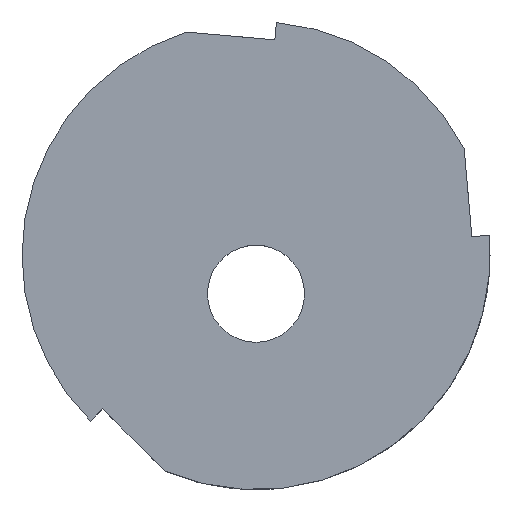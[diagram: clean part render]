
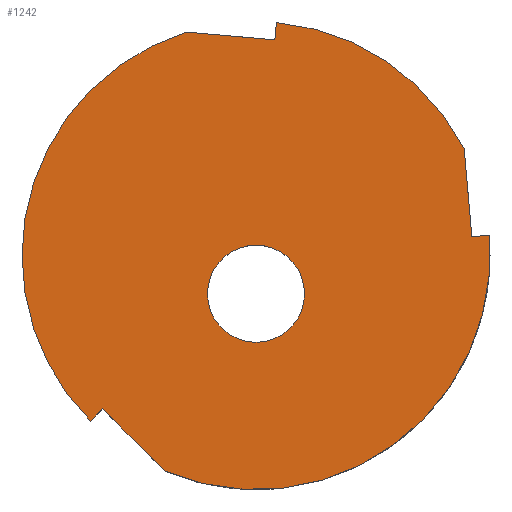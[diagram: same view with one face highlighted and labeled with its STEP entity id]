
A CAD part, top view. The second image highlights one B-rep face of the part: STEP entity #1242.
In plain terms, the highlighted planar face has unit normal (0, 0, 1).
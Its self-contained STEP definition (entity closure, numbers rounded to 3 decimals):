
#9 = LINE ( 'NONE', #518, #1566 ) ;
#21 = CIRCLE ( 'NONE', #1498, 33.75 ) ;
#25 = ORIENTED_EDGE ( 'NONE', *, *, #943, .T. ) ;
#38 = PLANE ( 'NONE',  #989 ) ;
#49 = VERTEX_POINT ( 'NONE', #136 ) ;
#94 = ORIENTED_EDGE ( 'NONE', *, *, #1385, .T. ) ;
#106 = DIRECTION ( 'NONE',  ( 0.707, 0.707, 0. ) ) ;
#133 = CARTESIAN_POINT ( 'NONE',  ( -33.75, 0., 1.8 ) ) ;
#134 = EDGE_CURVE ( 'NONE', #438, #546, #645, .T. ) ;
#136 = CARTESIAN_POINT ( 'NONE',  ( -7., -5.5, 1.8 ) ) ;
#138 = LINE ( 'NONE', #1499, #1428 ) ;
#145 = AXIS2_PLACEMENT_3D ( 'NONE', #492, #986, #1496 ) ;
#167 = AXIS2_PLACEMENT_3D ( 'NONE', #695, #819, #1200 ) ;
#172 = ORIENTED_EDGE ( 'NONE', *, *, #925, .T. ) ;
#182 = ORIENTED_EDGE ( 'NONE', *, *, #485, .T. ) ;
#193 = EDGE_CURVE ( 'NONE', #724, #496, #374, .T. ) ;
#206 = CARTESIAN_POINT ( 'NONE',  ( 2.724, 31.131, 1.8 ) ) ;
#210 = CIRCLE ( 'NONE', #1401, 33.75 ) ;
#217 = DIRECTION ( 'NONE',  ( 0., 0., 1. ) ) ;
#239 = DIRECTION ( 'NONE',  ( 1., 0., 0. ) ) ;
#253 = CARTESIAN_POINT ( 'NONE',  ( 33.622, 2.942, 1.8 ) ) ;
#277 = ORIENTED_EDGE ( 'NONE', *, *, #749, .F. ) ;
#298 = VERTEX_POINT ( 'NONE', #868 ) ;
#305 = EDGE_LOOP ( 'NONE', ( #932, #328, #25, #317, #172, #1045, #182, #1616, #1635, #94 ) ) ;
#313 = FACE_BOUND ( 'NONE', #609, .T. ) ;
#315 = EDGE_CURVE ( 'NONE', #546, #743, #138, .T. ) ;
#317 = ORIENTED_EDGE ( 'NONE', *, *, #893, .T. ) ;
#328 = ORIENTED_EDGE ( 'NONE', *, *, #315, .T. ) ;
#348 = DIRECTION ( 'NONE',  ( 0., 0., 1. ) ) ;
#350 = VERTEX_POINT ( 'NONE', #1310 ) ;
#352 = CARTESIAN_POINT ( 'NONE',  ( 0., -5.5, 1.8 ) ) ;
#363 = DIRECTION ( 'NONE',  ( -0.996, 0.087, 0. ) ) ;
#374 = LINE ( 'NONE', #1016, #1375 ) ;
#386 = DIRECTION ( 'NONE',  ( -0.087, -0.996, 0. ) ) ;
#425 = CARTESIAN_POINT ( 'NONE',  ( 31.131, 2.724, 1.8 ) ) ;
#438 = VERTEX_POINT ( 'NONE', #1562 ) ;
#446 = EDGE_CURVE ( 'NONE', #496, #642, #544, .T. ) ;
#485 = EDGE_CURVE ( 'NONE', #350, #724, #210, .T. ) ;
#492 = CARTESIAN_POINT ( 'NONE',  ( 0., 0., 1.8 ) ) ;
#496 = VERTEX_POINT ( 'NONE', #723 ) ;
#518 = CARTESIAN_POINT ( 'NONE',  ( -22.097, -22.097, 1.8 ) ) ;
#544 = LINE ( 'NONE', #425, #1085 ) ;
#546 = VERTEX_POINT ( 'NONE', #206 ) ;
#562 = CIRCLE ( 'NONE', #1430, 7. ) ;
#566 = FACE_OUTER_BOUND ( 'NONE', #305, .T. ) ;
#609 = EDGE_LOOP ( 'NONE', ( #910, #277 ) ) ;
#614 = CARTESIAN_POINT ( 'NONE',  ( 7., -5.5, 1.8 ) ) ;
#642 = VERTEX_POINT ( 'NONE', #1309 ) ;
#645 = LINE ( 'NONE', #1282, #1209 ) ;
#652 = CIRCLE ( 'NONE', #145, 33.75 ) ;
#695 = CARTESIAN_POINT ( 'NONE',  ( 0., 0., 1.8 ) ) ;
#715 = DIRECTION ( 'NONE',  ( 1., 0., 0. ) ) ;
#723 = CARTESIAN_POINT ( 'NONE',  ( 31.131, 2.724, 1.8 ) ) ;
#724 = VERTEX_POINT ( 'NONE', #253 ) ;
#730 = CARTESIAN_POINT ( 'NONE',  ( 0., 0., 1.8 ) ) ;
#742 = CIRCLE ( 'NONE', #167, 33.75 ) ;
#743 = VERTEX_POINT ( 'NONE', #755 ) ;
#749 = EDGE_CURVE ( 'NONE', #933, #49, #562, .T. ) ;
#755 = CARTESIAN_POINT ( 'NONE',  ( -9.975, 32.242, 1.8 ) ) ;
#778 = EDGE_CURVE ( 'NONE', #298, #350, #9, .T. ) ;
#819 = DIRECTION ( 'NONE',  ( 0., 0., 1. ) ) ;
#854 = DIRECTION ( 'NONE',  ( 0., 0., 1. ) ) ;
#868 = CARTESIAN_POINT ( 'NONE',  ( -22.097, -22.097, 1.8 ) ) ;
#888 = CIRCLE ( 'NONE', #1340, 7. ) ;
#893 = EDGE_CURVE ( 'NONE', #1198, #1501, #21, .T. ) ;
#904 = DIRECTION ( 'NONE',  ( 0., 0., 1. ) ) ;
#910 = ORIENTED_EDGE ( 'NONE', *, *, #964, .F. ) ;
#925 = EDGE_CURVE ( 'NONE', #1501, #298, #1489, .T. ) ;
#932 = ORIENTED_EDGE ( 'NONE', *, *, #134, .T. ) ;
#933 = VERTEX_POINT ( 'NONE', #614 ) ;
#943 = EDGE_CURVE ( 'NONE', #743, #1198, #652, .T. ) ;
#964 = EDGE_CURVE ( 'NONE', #49, #933, #888, .T. ) ;
#986 = DIRECTION ( 'NONE',  ( 0., 0., 1. ) ) ;
#989 = AXIS2_PLACEMENT_3D ( 'NONE', #1321, #904, #1549 ) ;
#1016 = CARTESIAN_POINT ( 'NONE',  ( 33.622, 2.942, 1.8 ) ) ;
#1045 = ORIENTED_EDGE ( 'NONE', *, *, #778, .T. ) ;
#1081 = CARTESIAN_POINT ( 'NONE',  ( -23.865, -23.865, 1.8 ) ) ;
#1085 = VECTOR ( 'NONE', #1436, 1000. ) ;
#1139 = CARTESIAN_POINT ( 'NONE',  ( 0., -5.5, 1.8 ) ) ;
#1148 = DIRECTION ( 'NONE',  ( -0.996, -0.087, 0. ) ) ;
#1156 = DIRECTION ( 'NONE',  ( 1., 0., 0. ) ) ;
#1198 = VERTEX_POINT ( 'NONE', #133 ) ;
#1200 = DIRECTION ( 'NONE',  ( 1., 0., 0. ) ) ;
#1209 = VECTOR ( 'NONE', #386, 1000. ) ;
#1216 = CARTESIAN_POINT ( 'NONE',  ( 0., 0., 1.8 ) ) ;
#1223 = DIRECTION ( 'NONE',  ( 1., 0., 0. ) ) ;
#1239 = CARTESIAN_POINT ( 'NONE',  ( -23.865, -23.865, 1.8 ) ) ;
#1242 = ADVANCED_FACE ( 'NONE', ( #566, #313 ), #38, .T. ) ;
#1282 = CARTESIAN_POINT ( 'NONE',  ( 2.942, 33.622, 1.8 ) ) ;
#1309 = CARTESIAN_POINT ( 'NONE',  ( 30.02, 15.423, 1.8 ) ) ;
#1310 = CARTESIAN_POINT ( 'NONE',  ( -13.083, -31.111, 1.8 ) ) ;
#1321 = CARTESIAN_POINT ( 'NONE',  ( 0., 0., 1.8 ) ) ;
#1340 = AXIS2_PLACEMENT_3D ( 'NONE', #352, #854, #1223 ) ;
#1369 = VECTOR ( 'NONE', #106, 1000. ) ;
#1375 = VECTOR ( 'NONE', #1148, 1000. ) ;
#1385 = EDGE_CURVE ( 'NONE', #642, #438, #742, .T. ) ;
#1401 = AXIS2_PLACEMENT_3D ( 'NONE', #1216, #348, #715 ) ;
#1406 = DIRECTION ( 'NONE',  ( 0., 0., 1. ) ) ;
#1412 = DIRECTION ( 'NONE',  ( 0.707, -0.707, 0. ) ) ;
#1428 = VECTOR ( 'NONE', #363, 1000. ) ;
#1430 = AXIS2_PLACEMENT_3D ( 'NONE', #1139, #1406, #1156 ) ;
#1436 = DIRECTION ( 'NONE',  ( -0.087, 0.996, 0. ) ) ;
#1489 = LINE ( 'NONE', #1239, #1369 ) ;
#1496 = DIRECTION ( 'NONE',  ( 1., 0., 0. ) ) ;
#1498 = AXIS2_PLACEMENT_3D ( 'NONE', #730, #217, #239 ) ;
#1499 = CARTESIAN_POINT ( 'NONE',  ( 2.724, 31.131, 1.8 ) ) ;
#1501 = VERTEX_POINT ( 'NONE', #1081 ) ;
#1549 = DIRECTION ( 'NONE',  ( 1., 0., 0. ) ) ;
#1562 = CARTESIAN_POINT ( 'NONE',  ( 2.942, 33.622, 1.8 ) ) ;
#1566 = VECTOR ( 'NONE', #1412, 1000. ) ;
#1616 = ORIENTED_EDGE ( 'NONE', *, *, #193, .T. ) ;
#1635 = ORIENTED_EDGE ( 'NONE', *, *, #446, .T. ) ;
